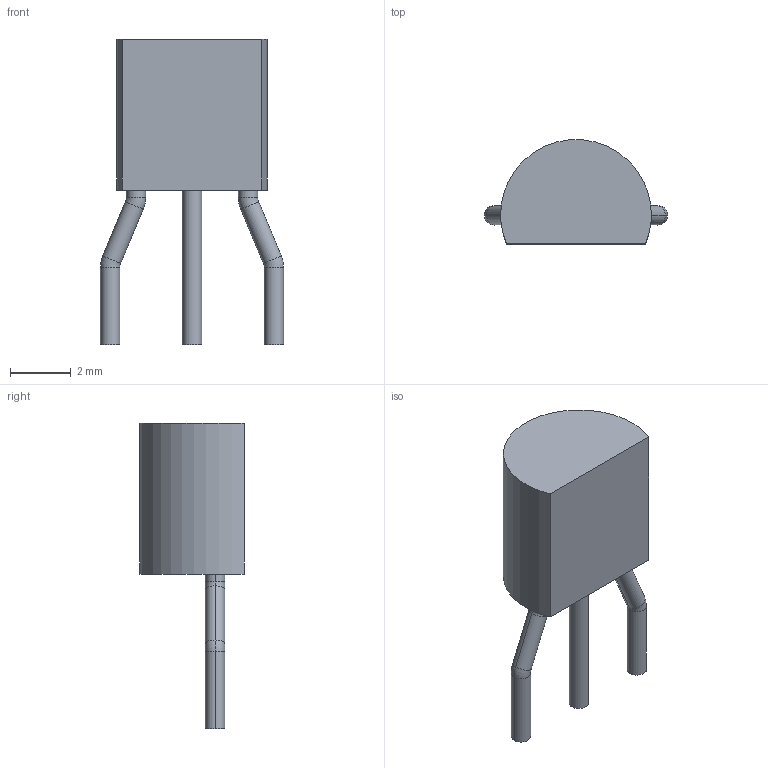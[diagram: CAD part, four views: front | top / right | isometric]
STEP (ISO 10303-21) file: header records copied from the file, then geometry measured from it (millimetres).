
FILE_DESCRIPTION(('STEP AP214'),'1');
FILE_NAME('21-0250_Q3+4_MXM','2026-06-01T09:37:20',(''),(''),'','','');
FILE_SCHEMA(('AUTOMOTIVE_DESIGN'));
Length unit declared in the file: millimetre
Products named in the file (1): product
Bounding box: 6.01 x 3.42 x 10.03 mm (x, y, z)
Volume: 75.4 mm3; surface area: 132.3 mm2
Topology: 4 solids, 4 shells, 31 faces, 53 edges, 30 vertices
Faces by surface type: cylinder 14, plane 9, torus 8
Full cylindrical faces by diameter (mm): 0.635 x1
Entity records: 895 total; most frequent: DIRECTION 154, ORIENTED_EDGE 104, CARTESIAN_POINT 83, AXIS2_PLACEMENT_3D 69, EDGE_CURVE 52, CIRCLE 36, EDGE_LOOP 32, ADVANCED_FACE 31
